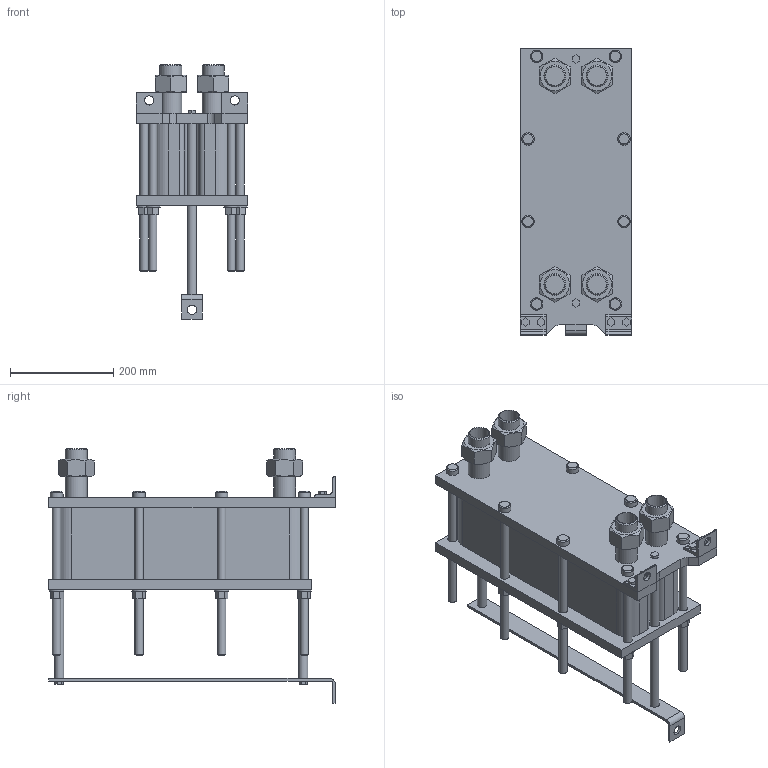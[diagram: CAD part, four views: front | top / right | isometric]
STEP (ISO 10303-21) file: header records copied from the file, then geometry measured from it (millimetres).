
FILE_DESCRIPTION(/* description */ (''),/* implementation_level */ '2;1');
FILE_NAME(/* name */ 'C:\Users\zhuro\Desktop\ENCO\TO\ЭН-004\ЭН-0,5-004-45-1.stp',/* time_stamp */ '2022-06-06T10:46:42+03:00',/* author */ ('zhuro'),/* organization */ (''),/* preprocessor_version */ 'ST-DEVELOPER v18.1',/* originating_system */ 'Autodesk Inventor 2022',/* authorisation */ '');
FILE_SCHEMA (('AUTOMOTIVE_DESIGN { 1 0 10303 214 3 1 1 }'));
Length unit declared in the file: millimetre
Products named in the file (1): ЭН-0,5-004-45-1
Bounding box: 216 x 555 x 493 mm (x, y, z)
Volume: 16023412.3 mm3; surface area: 1261041.5 mm2
Topology: 40 solids, 40 shells, 403 faces, 865 edges, 574 vertices
Faces by surface type: plane 272, cylinder 103, cone 28
Full cylindrical faces by diameter (mm): 10 x4, 16 x16, 18 x29, 20 x2, 24 x8, 28 x8, 36.3 x5, 42.3 x9
Entity records: 11137 total; most frequent: CARTESIAN_POINT 1939, DIRECTION 1879, ORIENTED_EDGE 1730, EDGE_CURVE 865, AXIS2_PLACEMENT_3D 658, VERTEX_POINT 574, LINE 563, VECTOR 563
